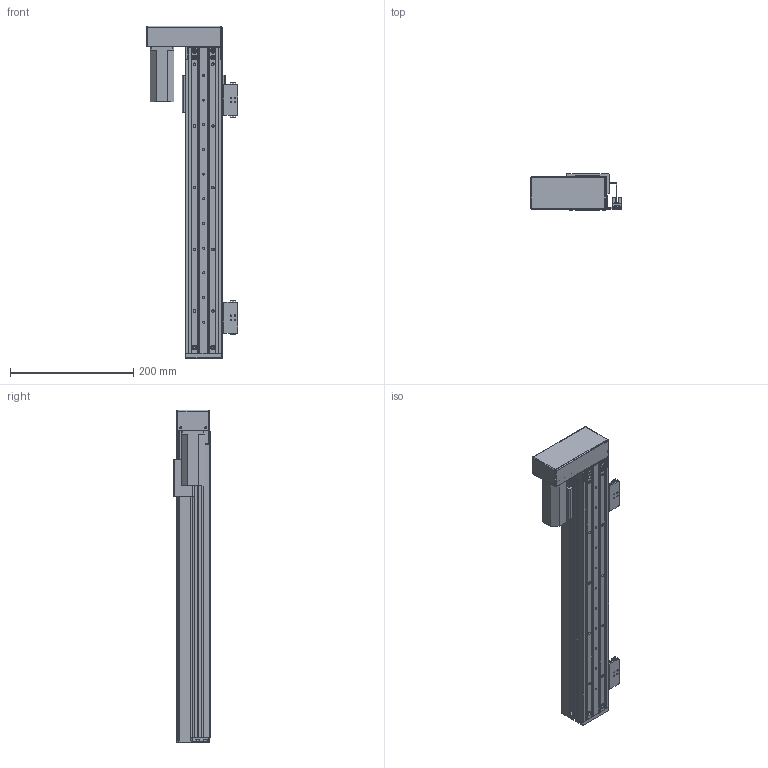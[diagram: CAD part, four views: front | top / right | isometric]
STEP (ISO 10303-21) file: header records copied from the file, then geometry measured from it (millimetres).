
FILE_DESCRIPTION (( 'STEP AP203' ), '1' );
FILE_NAME ('RY60FB-L1210-300-LK.SLDASM_350.step', '2021-02-23T01:00:51', ( '盈信电脑' ), ( '东莞市道滘镇水果街19号' ), 'SwSTEP 2.0', 'SolidWorks 2012', '' );
FILE_SCHEMA (( 'CONFIG_CONTROL_DESIGN' ));
Length unit declared in the file: millimetre
Products named in the file (14): RY60FB-蛌殏菁釱-300-LK_350; RY60FB-674嫖萇耀輸; RY80俋离覜茼え; RY60FB-L1210-300-LK.SLDASM_350; 覜茼ん674; RY60FB转折电机端支撑座; RY60FB-左右折电机安装板; RY60FB-感应器674光电安装座; RY60FB-蛌殏萇儂欶; RY60FB-蛌殏奻裔-300-LK_350; RY60FB綴裔啣; 滅袉蝶18-10; 侂狟100W; RY60FB-臏賑輸
Assembly tree (18 placements, depth 3):
  RY60FB-L1210-300-LK.SLDASM_350
    RY60FB-蛌殏菁釱-300-LK_350
    RY60FB-臏賑輸
    滅袉蝶18-10  x4
    RY60FB-蛌殏奻裔-300-LK_350
    侂狟100W
    RY60FB綴裔啣
    RY60FB转折电机端支撑座
    RY60FB-左右折电机安装板
    RY60FB-蛌殏萇儂欶
    RY60FB-674嫖萇耀輸  x2
      RY60FB-感应器674光电安装座
      覜茼ん674
    RY80俋离覜茼え
Bounding box: 147.75 x 58.5 x 538 mm (x, y, z)
Volume: 772226 mm3; surface area: 422473.9 mm2
Topology: 19 solids, 19 shells, 1151 faces, 3128 edges, 1994 vertices
Faces by surface type: plane 591, cylinder 455, cone 97, bspline 8
Entity records: 30976 total; most frequent: CARTESIAN_POINT 6066, DIRECTION 4906, ORIENTED_EDGE 4808, EDGE_CURVE 2404, AXIS2_PLACEMENT_3D 1708, VERTEX_POINT 1556, LINE 1490, VECTOR 1490
